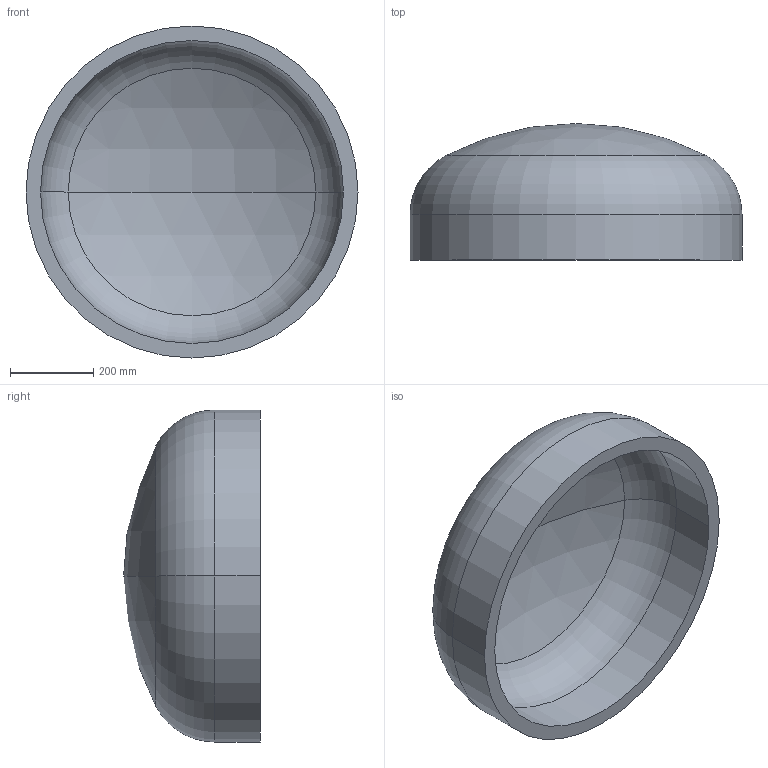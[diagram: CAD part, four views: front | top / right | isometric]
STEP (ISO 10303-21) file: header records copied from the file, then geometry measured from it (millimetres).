
FILE_DESCRIPTION (( 'STEP AP203' ), '1' );
FILE_NAME ('DIN 28013 Korbbogenform_-_Boden DIN 28013 - 800 x 110 - I - s=35.step', '2016-07-01T08:15:51', ( '' ), ( '' ), 'SwSTEP 2.0', 'SolidWorks 2013', '' );
FILE_SCHEMA (( 'CONFIG_CONTROL_DESIGN' ));
Length unit declared in the file: millimetre
Products named in the file (1): DIN 28013 Korbbogenform_-_Boden DIN 28013 - 800 x 110 - I - s=35
Bounding box: 800 x 329.34 x 800 mm (x, y, z)
Volume: 32348482.4 mm3; surface area: 1935166.1 mm2
Topology: 1 solids, 1 shells, 13 faces, 24 edges, 14 vertices
Faces by surface type: torus 4, cylinder 4, sphere 4, plane 1
Entity records: 407 total; most frequent: DIRECTION 72, CARTESIAN_POINT 52, ORIENTED_EDGE 48, AXIS2_PLACEMENT_3D 34, EDGE_CURVE 24, CIRCLE 20, EDGE_LOOP 14, VERTEX_POINT 14
